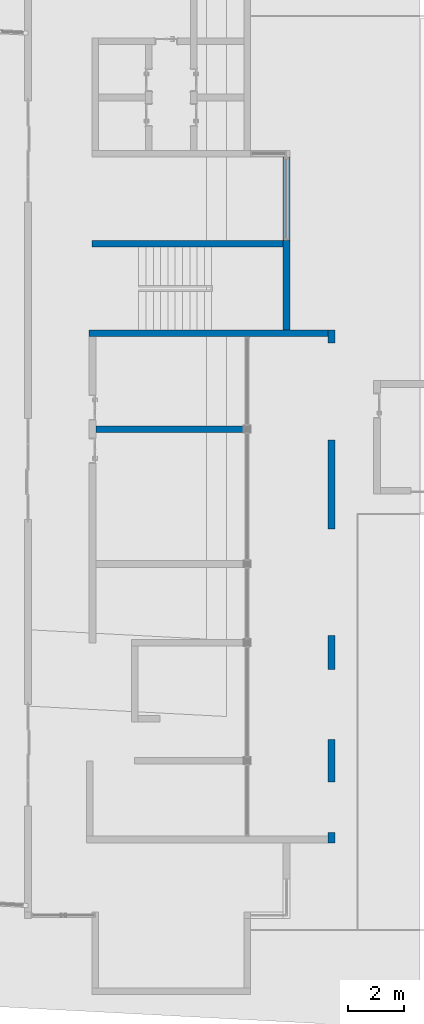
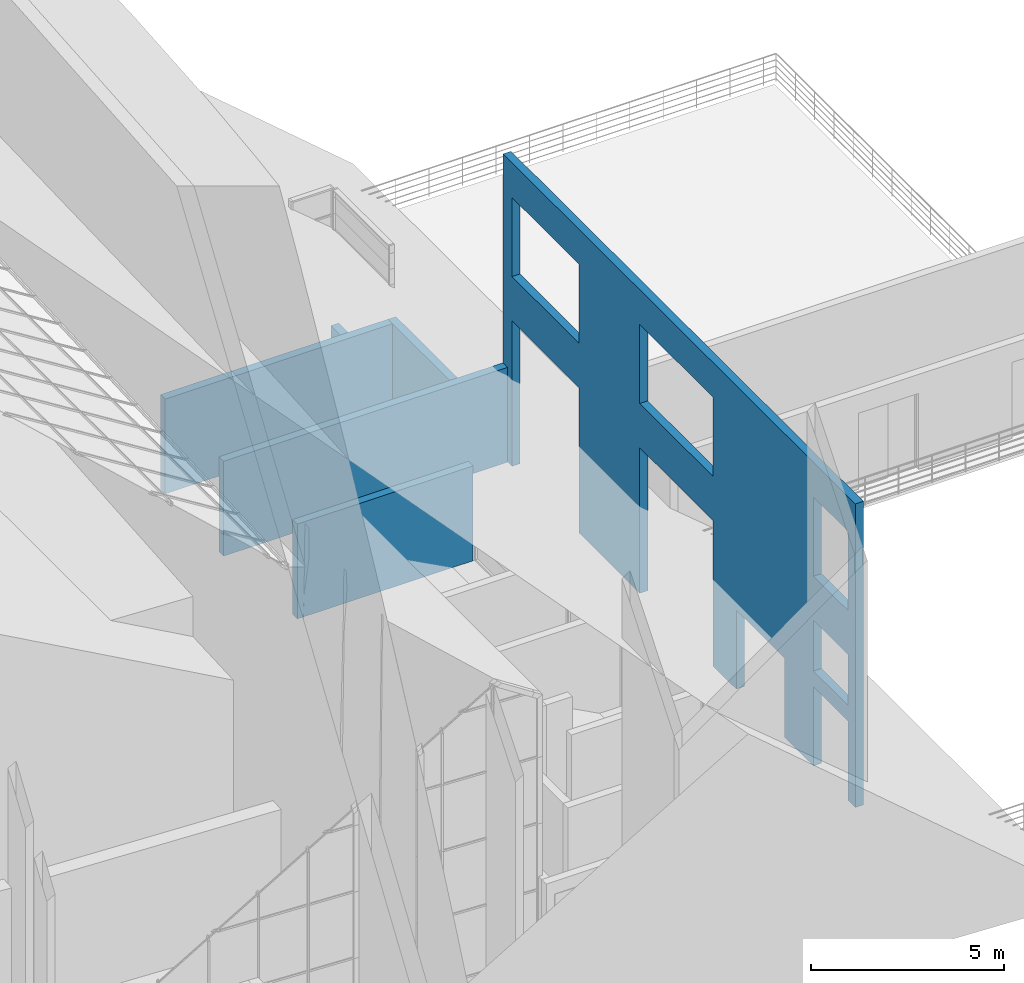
# One storey, part 56 of 82: 5 walls, 9 openings.
"""IFC2X3 building model written with IfcOpenShell, lengths in millimetres."""

import ifcopenshell
import ifcopenshell.guid

model = None  # the IFC model being written
_history = None  # IfcOwnerHistory: only IFC2X3 demands one
_inside = {}  # id of a spatial element -> (the spatial element, [elements in it])
_under = {}  # id of a project, library or spatial element -> (it, [spatial elements below it])
_declared = {}  # id of a project -> (the project, [libraries it declares])
_typed = {}  # id of a type object -> (the type object, [elements of that type])
_made_of = {}  # id of a material, layer set ... -> (it, [elements and type objects made of it])


def new_model(schema):
    """Start an empty IFC model of exactly this schema.

    Asked for "IFC4X3", IfcOpenShell would pick the latest addendum, in which some entities
    have other attributes; the version numbers below select the first issue.
    IFC2X3 requires an IfcOwnerHistory on every rooted entity: one is made here for all.
    """
    global model, _history
    if schema == "IFC4X3":
        model = ifcopenshell.file(schema_version=(4, 3, 0, 0))
    else:
        model = ifcopenshell.file(schema=schema)
    _inside.clear()
    _under.clear()
    _declared.clear()
    _typed.clear()
    _made_of.clear()
    _history = None
    if model.schema == "IFC2X3":
        org = make("IfcOrganization", Name="unknown")
        user = make(
            "IfcPersonAndOrganization",
            ThePerson=make("IfcPerson", FamilyName="unknown"),
            TheOrganization=org,
        )
        app = make(
            "IfcApplication",
            ApplicationDeveloper=org,
            Version="unknown",
            ApplicationFullName="unknown",
            ApplicationIdentifier="unknown",
        )
        _history = make(
            "IfcOwnerHistory",
            OwningUser=user,
            OwningApplication=app,
            ChangeAction="ADDED",
            CreationDate=0,
        )
    return model


def make(cls, **values):
    """One entity of the class cls with the attributes given. An attribute that is None is left unset."""
    return model.create_entity(
        cls, **{name: value for name, value in values.items() if value is not None}
    )


def entity(cls, *values):
    """Any entity or typed value of the class cls, its attributes in the order of the schema. None: left unset."""
    e = model.create_entity(cls)
    for i, value in enumerate(values):
        if value is not None:
            e[i] = value
    return e


def rooted(cls, **values):
    """An entity with a GlobalId (a new one), such as an element, a storey or a relation."""
    return make(cls, GlobalId=ifcopenshell.guid.new(), OwnerHistory=_history, **values)


def si_unit(unit_type, name, prefix=None):
    """IfcSIUnit, for example si_unit("LENGTHUNIT", "METRE", prefix="MILLI")."""
    return make("IfcSIUnit", UnitType=unit_type, Prefix=prefix, Name=name)


def converted_unit(unit_type, name, factor, base, dimensions=None, offset=None):
    """IfcConversionBasedUnit, such as the inch: factor (a typed value) times the base unit."""
    return make(
        "IfcConversionBasedUnit"
        if offset is None
        else "IfcConversionBasedUnitWithOffset",
        ConversionOffset=offset,
        Dimensions=None
        if dimensions is None
        else entity("IfcDimensionalExponents", *dimensions),
        UnitType=unit_type,
        Name=name,
        ConversionFactor=make(
            "IfcMeasureWithUnit", ValueComponent=factor, UnitComponent=base
        ),
    )


def derived_unit(unit_type, elements):
    """IfcDerivedUnit: a product of units, each with its exponent."""
    return make(
        "IfcDerivedUnit",
        Elements=[
            make("IfcDerivedUnitElement", Unit=unit, Exponent=power)
            for unit, power in elements
        ],
        UnitType=unit_type,
    )


def assignment(units):
    """IfcUnitAssignment: the units of a project."""
    return None if units is None else make("IfcUnitAssignment", Units=units)


def point(xyz):
    """IfcCartesianPoint."""
    return None if xyz is None else make("IfcCartesianPoint", Coordinates=xyz)


def direction(xyz):
    """IfcDirection."""
    return None if xyz is None else make("IfcDirection", DirectionRatios=xyz)


def frame(location, z_axis=None, x_axis=None):
    """IfcAxis2Placement3D, a coordinate frame: its origin and axes. An axis left out is left unset."""
    return make(
        "IfcAxis2Placement3D",
        Location=point(location),
        Axis=direction(z_axis),
        RefDirection=direction(x_axis),
    )


def frame_2d(location, x_axis=None):
    """IfcAxis2Placement2D, a coordinate frame in the plane: its origin and x axis."""
    return make(
        "IfcAxis2Placement2D", Location=point(location), RefDirection=direction(x_axis)
    )


def origin():
    """The frame at (0, 0, 0) with its axes left unset."""
    return frame((0.0, 0.0, 0.0))


def origin_2d_with_axis():
    """The frame at (0, 0) in the plane with the x axis (1, 0) written out."""
    return frame_2d((0.0, 0.0), x_axis=(1.0, 0.0))


def place(relative_to, where):
    """IfcLocalPlacement: puts the frame where relative to a parent placement (None: the world)."""
    return make(
        "IfcLocalPlacement", PlacementRelTo=relative_to, RelativePlacement=where
    )


def context(
    kind, dimensions, precision=None, world=None, true_north=None, identifier=None
):
    """IfcGeometricRepresentationContext, for example the 3D "Model" context."""
    return make(
        "IfcGeometricRepresentationContext",
        ContextIdentifier=identifier,
        ContextType=kind,
        CoordinateSpaceDimension=dimensions,
        Precision=precision,
        WorldCoordinateSystem=world,
        TrueNorth=true_north,
    )


def subcontext(parent, identifier, kind, view, scale=None):
    """IfcGeometricRepresentationSubContext, for example "Body" below "Model"."""
    return make(
        "IfcGeometricRepresentationSubContext",
        ContextIdentifier=identifier,
        ContextType=kind,
        ParentContext=parent,
        TargetScale=scale,
        TargetView=view,
    )


def project(units=None, contexts=None):
    """IfcProject with its units and contexts."""
    return rooted(
        "IfcProject",
        Name="project",
        RepresentationContexts=contexts,
        UnitsInContext=assignment(units),
    )


def spatial(cls, under=None, at=None, **own):
    """A site, building, storey or space (cls), placed at a placement, below another one or the project."""
    s = rooted(cls, ObjectPlacement=at, **own)
    if under is not None:
        _under.setdefault(under.id(), (under, []))[1].append(s)
    return s


def profile(cls, at=None, kind="AREA", **sizes):
    """A parametric profile (cls). Its sizes go by their IFC names, for example OverallWidth=200.0."""
    return make(cls, ProfileType=kind, Position=at, **sizes)


def rectangle(**sizes):
    """IfcRectangleProfileDef."""
    return profile("IfcRectangleProfileDef", **sizes)


def extrude(swept, where, along, depth):
    """IfcExtrudedAreaSolid: the profile swept, set in the frame where, extruded along a direction by depth."""
    return make(
        "IfcExtrudedAreaSolid",
        SweptArea=swept,
        Position=where,
        ExtrudedDirection=direction(along),
        Depth=depth,
    )


def shape(context_of_items, identifier, shape_type, items):
    """IfcShapeRepresentation: the items that make up one representation, for example the "Body"."""
    return make(
        "IfcShapeRepresentation",
        ContextOfItems=context_of_items,
        RepresentationIdentifier=identifier,
        RepresentationType=shape_type,
        Items=items,
    )


def material(Name=None, Category=None):
    """IfcMaterial."""
    return make("IfcMaterial", Name=Name, Category=Category)


def layer(
    of_material, thickness, ventilated=None, Name=None, Category=None, Priority=None
):
    """IfcMaterialLayer: one layer of a wall or slab, of a material (None: an air gap)."""
    return make(
        "IfcMaterialLayer",
        Material=of_material,
        LayerThickness=thickness,
        IsVentilated=ventilated,
        Name=Name,
        Category=Category,
        Priority=Priority,
    )


def layer_set(layers, Name=None):
    """IfcMaterialLayerSet."""
    return make("IfcMaterialLayerSet", MaterialLayers=layers, LayerSetName=Name)


def layer_usage(for_layer_set, set_direction, sense, offset, extent=None):
    """IfcMaterialLayerSetUsage: how a layer set lies in its element."""
    return make(
        "IfcMaterialLayerSetUsage",
        ForLayerSet=for_layer_set,
        LayerSetDirection=set_direction,
        DirectionSense=sense,
        OffsetFromReferenceLine=offset,
        ReferenceExtent=extent,
    )


def made_of(thing, what):
    """Note that an element or type object is made of a material, layer set ...; save() writes the relation."""
    if what is not None:
        _made_of.setdefault(what.id(), (what, []))[1].append(thing)
    return thing


def type_object(cls, material=None, **own):
    """A type object (cls), such as IfcWallType, which elements share."""
    return made_of(rooted(cls, **own), material)


def element(
    cls,
    number,
    at=None,
    inside=None,
    cuts=None,
    type_object=None,
    material=None,
    context=None,
    identifier="Body",
    shape_type=None,
    held_by="IfcProductDefinitionShape",
    body=None,
    shapes=None,
    **own,
):
    """One element of the class cls, such as IfcWall. Its Tag is "e" and its number.

    at: its placement. inside: the storey or other place that contains it. cuts: it is an
    opening in that element (IfcRelVoidsElement). A single representation is given by context,
    identifier, shape_type and body (its items); several are given by shapes. held_by: the class
    of the entity that holds the representations. save() writes the other relations.
    """
    e = rooted(cls, Tag="e%d" % number, ObjectPlacement=at, **own)
    if body is not None:
        shapes = [shape(context, identifier, shape_type, body)]
    if shapes is not None:
        e.Representation = make(held_by, Representations=shapes)
    if inside is not None:
        _inside.setdefault(inside.id(), (inside, []))[1].append(e)
    if cuts is not None:
        rooted(
            "IfcRelVoidsElement", RelatingBuildingElement=cuts, RelatedOpeningElement=e
        )
    if type_object is not None:
        _typed.setdefault(type_object.id(), (type_object, []))[1].append(e)
    return made_of(e, material)


def aggregate(whole, parts):
    """IfcRelAggregates: a whole, such as a stair, and the parts it consists of."""
    return rooted("IfcRelAggregates", RelatingObject=whole, RelatedObjects=parts)


def save(model, path):
    """Write the relations noted so far, then the file.

    IfcRelAggregates (storeys below a building ...), IfcRelContainedInSpatialStructure (elements
    in a storey), IfcRelDefinesByType, IfcRelAssociatesMaterial and IfcRelDeclares: one each for
    every whole, place, type object, material and project.
    """
    for whole, parts in _under.values():
        aggregate(whole, parts)
    for where, things in _inside.values():
        rooted(
            "IfcRelContainedInSpatialStructure",
            RelatedElements=things,
            RelatingStructure=where,
        )
    for kind, things in _typed.values():
        rooted("IfcRelDefinesByType", RelatedObjects=things, RelatingType=kind)
    for what, things in _made_of.values():
        rooted("IfcRelAssociatesMaterial", RelatedObjects=things, RelatingMaterial=what)
    for by, libraries in _declared.values():
        rooted("IfcRelDeclares", RelatingContext=by, RelatedDefinitions=libraries)
    model.write(path)


model = new_model("IFC2X3")

# Units and contexts
model_context = context("Model", 3, precision=0.01, world=origin(), true_north=direction((6.12303176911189e-17, 1.0)))
body_context = subcontext(model_context, "Body", "Model", "MODEL_VIEW")
ifc_project = project(units=[si_unit("LENGTHUNIT", "METRE", prefix="MILLI"), si_unit("AREAUNIT", "SQUARE_METRE"), si_unit("VOLUMEUNIT", "CUBIC_METRE"), converted_unit("PLANEANGLEUNIT", "DEGREE", entity("IfcRatioMeasure", 0.0174532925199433), si_unit("PLANEANGLEUNIT", "RADIAN"), dimensions=[0, 0, 0, 0, 0, 0, 0]), si_unit("MASSUNIT", "GRAM", prefix="KILO"), derived_unit("MASSDENSITYUNIT", [(si_unit("MASSUNIT", "GRAM", prefix="KILO"), 1), (si_unit("LENGTHUNIT", "METRE"), -3)]), si_unit("TIMEUNIT", "SECOND"), si_unit("FREQUENCYUNIT", "HERTZ"), si_unit("THERMODYNAMICTEMPERATUREUNIT", "DEGREE_CELSIUS"), derived_unit("THERMALTRANSMITTANCEUNIT", [(si_unit("MASSUNIT", "GRAM", prefix="KILO"), 1), (si_unit("THERMODYNAMICTEMPERATUREUNIT", "KELVIN"), -1), (si_unit("TIMEUNIT", "SECOND"), -3)]), derived_unit("VOLUMETRICFLOWRATEUNIT", [(si_unit("LENGTHUNIT", "METRE"), 3), (si_unit("TIMEUNIT", "SECOND"), -1)]), si_unit("ELECTRICCURRENTUNIT", "AMPERE"), si_unit("ELECTRICVOLTAGEUNIT", "VOLT"), si_unit("POWERUNIT", "WATT"), si_unit("FORCEUNIT", "NEWTON", prefix="KILO"), si_unit("ILLUMINANCEUNIT", "LUX"), si_unit("LUMINOUSFLUXUNIT", "LUMEN"), si_unit("LUMINOUSINTENSITYUNIT", "CANDELA"), derived_unit("USERDEFINED", [(si_unit("MASSUNIT", "GRAM", prefix="KILO"), -1), (si_unit("LENGTHUNIT", "METRE"), -2), (si_unit("TIMEUNIT", "SECOND"), 3), (si_unit("LUMINOUSFLUXUNIT", "LUMEN"), 1)]), derived_unit("LINEARVELOCITYUNIT", [(si_unit("LENGTHUNIT", "METRE"), 1), (si_unit("TIMEUNIT", "SECOND"), -1)]), si_unit("PRESSUREUNIT", "PASCAL"), derived_unit("USERDEFINED", [(si_unit("LENGTHUNIT", "METRE"), -2), (si_unit("MASSUNIT", "GRAM", prefix="KILO"), 1), (si_unit("TIMEUNIT", "SECOND"), -2)])], contexts=[model_context])

# Site, building, storey
site_placement = place(None, origin())
site = spatial("IfcSite", under=ifc_project, at=site_placement, Name="表面", CompositionType="ELEMENT")
building_placement = place(site_placement, origin())
building = spatial("IfcBuilding", under=site, at=building_placement, CompositionType="ELEMENT")
storey_placement = place(building_placement, origin())
storey = spatial("IfcBuildingStorey", under=building, at=storey_placement, Name="1F", CompositionType="ELEMENT", Elevation=0.0)

# Wall, opening
ifc_material_1 = material(Name="白色涂料")
ifc_layer_1 = layer(ifc_material_1, 10.0)
ifc_material_2 = material(Name="默认墙")
ifc_layer_2 = layer(ifc_material_2, 220.0)
ifc_layer_3 = layer(ifc_material_1, 10.0)
ifc_layer_set = layer_set([ifc_layer_1, ifc_layer_2, ifc_layer_3], Name="基本墙:粉刷墙240")
ifc_layer_usage_1 = layer_usage(ifc_layer_set, "AXIS2", "NEGATIVE", 120.0)
wall_type = type_object("IfcWallType", Name="基本墙:粉刷墙240", PredefinedType="STANDARD", material=ifc_layer_set)
wall_1_placement = place(storey_placement, frame((-5230.24991264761, -2436.868426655, 0.0), z_axis=(0.0, 0.0, 1.0), x_axis=(0.0, -1.0, 0.0)))
wall_1 = element("IfcWallStandardCase", 1, at=wall_1_placement, inside=storey, type_object=wall_type, material=ifc_layer_usage_1, Name="基本墙:粉刷墙240", ObjectType="基本墙:粉刷墙240", context=body_context, shape_type="SweptSolid", body=[
    extrude(rectangle(XDim=6150.97748632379, YDim=240.0, at=frame_2d((3075.4887431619, -2.06057393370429e-13), x_axis=(-1.0, 0.0))), origin(), (0.0, 0.0, 1.0), 3000.00000000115),
])
opening_1_placement = place(wall_1_placement, origin())
element("IfcOpeningElement", 2, at=opening_1_placement, cuts=wall_1, Name="基本墙:粉刷墙240", ObjectType="Opening", context=body_context, shape_type="SweptSolid", body=[
    extrude(rectangle(XDim=4300.0, YDim=2960.0, at=frame_2d((0.0, 2.27373675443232e-13), x_axis=(1.0, 0.0))), frame((1480.0, -272.399999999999, 3150.0), z_axis=(0.0, 1.0, 0.0), x_axis=(0.0, 0.0, 1.0)), (0.0, 0.0, 1.0), 544.8),
])

# Walls
ifc_layer_usage_2 = layer_usage(ifc_layer_set, "AXIS2", "NEGATIVE", 120.0)
wall_2_placement = place(storey_placement, frame((-5350.24991264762, -5516.868426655, 0.0), z_axis=(0.0, 0.0, 1.0), x_axis=(-1.0, 0.0, 0.0)))
element("IfcWallStandardCase", 3, at=wall_2_placement, inside=storey, type_object=wall_type, material=ifc_layer_usage_2, Name="基本墙:粉刷墙240", ObjectType="基本墙:粉刷墙240", context=body_context, shape_type="SweptSolid", body=[
    extrude(rectangle(XDim=6800.00000000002, YDim=240.0, at=frame_2d((3400.00000000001, 0.0), x_axis=(-1.0, 0.0))), origin(), (0.0, 0.0, 1.0), 3000.00000000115),
])
ifc_layer_usage_3 = layer_usage(ifc_layer_set, "AXIS2", "NEGATIVE", 120.0)
wall_3_placement = place(storey_placement, frame((-12250.2499126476, -8707.84591297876, 0.0)))
element("IfcWallStandardCase", 4, at=wall_3_placement, inside=storey, type_object=wall_type, material=ifc_layer_usage_3, Name="基本墙:粉刷墙240", ObjectType="基本墙:粉刷墙240", context=body_context, shape_type="SweptSolid", body=[
    extrude(rectangle(XDim=8500.0, YDim=240.0, at=frame_2d((4250.0, 0.0), x_axis=(-1.0, 0.0))), origin(), (0.0, 0.0, 1.0), 3000.00000000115),
])
ifc_layer_usage_4 = layer_usage(ifc_layer_set, "AXIS2", "NEGATIVE", 120.0)
wall_4_placement = place(storey_placement, frame((-12010.2499126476, -12116.868426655, 0.0)))
element("IfcWallStandardCase", 5, at=wall_4_placement, inside=storey, type_object=wall_type, material=ifc_layer_usage_4, Name="基本墙:粉刷墙240", ObjectType="基本墙:粉刷墙240", context=body_context, shape_type="SweptSolid", body=[
    extrude(rectangle(XDim=5260.0, YDim=240.000000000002, at=frame_2d((2630.0, -3.83693077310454e-13), x_axis=(-1.0, 0.0))), origin(), (0.0, 0.0, 1.0), 3000.00000000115),
])

# Wall, openings
ifc_layer_usage_5 = layer_usage(ifc_layer_set, "AXIS2", "NEGATIVE", 120.0)
wall_5_placement = place(storey_placement, frame((-3630.24991264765, -26836.868426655, 0.0), z_axis=(0.0, 0.0, 1.0), x_axis=(0.0, 1.0, 0.0)))
wall_5 = element("IfcWallStandardCase", 6, at=wall_5_placement, inside=storey, type_object=wall_type, material=ifc_layer_usage_5, Name="基本墙:粉刷墙240", ObjectType="基本墙:粉刷墙240", context=body_context, shape_type="SweptSolid", body=[
    extrude(rectangle(XDim=18249.0225136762, YDim=240.0, at=frame_2d((9124.51125683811, 1.98951966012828e-13), x_axis=(-1.0, 0.0))), origin(), (0.0, 0.0, 1.0), 9600.00000000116),
])
opening_2_placement = place(wall_5_placement, origin())
element("IfcOpeningElement", 7, at=opening_2_placement, cuts=wall_5, Name="基本墙:粉刷墙240", ObjectType="Opening", context=body_context, shape_type="SweptSolid", body=[
    extrude(rectangle(XDim=2500.00000000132, YDim=1800.0, at=frame_2d((0.0, -2.1600499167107e-12), x_axis=(1.0, 0.0))), frame((1271.12268509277, -120.0, 1250.0), z_axis=(0.0, 1.0, 0.0), x_axis=(0.0, 0.0, -1.0)), (0.0, 0.0, 1.0), 240.0),
])
opening_3_placement = place(wall_5_placement, origin())
element("IfcOpeningElement", 8, at=opening_3_placement, cuts=wall_5, Name="基本墙:粉刷墙240", ObjectType="Opening", context=body_context, shape_type="SweptSolid", body=[
    extrude(rectangle(XDim=1599.9999999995, YDim=1800.0, at=frame_2d((2.8421709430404e-13, -2.1600499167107e-12), x_axis=(1.0, 0.0))), frame((1271.12268509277, -120.0, 3800.0), z_axis=(0.0, 1.0, 0.0), x_axis=(0.0, 0.0, -1.0)), (0.0, 0.0, 1.0), 240.0),
])
opening_4_placement = place(wall_5_placement, origin())
element("IfcOpeningElement", 9, at=opening_4_placement, cuts=wall_5, Name="基本墙:粉刷墙240", ObjectType="Opening", context=body_context, shape_type="SweptSolid", body=[
    extrude(rectangle(XDim=2500.0, YDim=1800.0, at=frame_2d((5.6843418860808e-13, -2.1600499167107e-12), x_axis=(1.0, 0.0))), frame((1271.12268509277, -120.0, 7250.0), z_axis=(0.0, 1.0, 0.0), x_axis=(0.0, 0.0, -1.0)), (0.0, 0.0, 1.0), 240.0),
])
opening_5_placement = place(wall_5_placement, origin())
element("IfcOpeningElement", 10, at=opening_5_placement, cuts=wall_5, Name="基本墙:粉刷墙240", ObjectType="Opening", context=body_context, shape_type="SweptSolid", body=[
    extrude(rectangle(XDim=2500.00000000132, YDim=2500.0, at=frame_2d((0.0, 2.27373675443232e-12), x_axis=(1.0, 0.0))), frame((4921.12268509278, -120.0, 1250.0), z_axis=(0.0, 1.0, 0.0), x_axis=(0.0, 0.0, -1.0)), (0.0, 0.0, 1.0), 240.0),
])
opening_6_placement = place(wall_5_placement, origin())
element("IfcOpeningElement", 11, at=opening_6_placement, cuts=wall_5, Name="基本墙:粉刷墙240", ObjectType="Opening", context=body_context, shape_type="SweptSolid", body=[
    extrude(rectangle(XDim=4600.0, YDim=3800.00000000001, at=frame_2d((0.0, 1.02318153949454e-12), x_axis=(1.0, 0.0))), frame((9271.12268509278, -120.0, 2300.0), z_axis=(0.0, 1.0, 0.0), x_axis=(0.0, 0.0, -1.0)), (0.0, 0.0, 1.0), 240.0),
])
opening_7_placement = place(wall_5_placement, origin())
element("IfcOpeningElement", 12, at=opening_7_placement, cuts=wall_5, Name="基本墙:粉刷墙240", ObjectType="Opening", context=body_context, shape_type="SweptSolid", body=[
    extrude(rectangle(XDim=2500.00000000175, YDim=3800.00000000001, at=frame_2d((0.0, 1.02318153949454e-12), x_axis=(1.0, 0.0))), frame((9271.12268509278, -120.0, 7250.0), z_axis=(0.0, 1.0, 0.0), x_axis=(0.0, 0.0, -1.0)), (0.0, 0.0, 1.0), 240.0),
])
opening_8_placement = place(wall_5_placement, origin())
element("IfcOpeningElement", 13, at=opening_8_placement, cuts=wall_5, Name="基本墙:粉刷墙240", ObjectType="Opening", context=body_context, shape_type="SweptSolid", body=[
    extrude(rectangle(XDim=2500.00000000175, YDim=3460.00000000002, at=origin_2d_with_axis()), frame((16059.0225136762, -120.0, 7250.0), z_axis=(0.0, 1.0, 0.0), x_axis=(0.0, 0.0, -1.0)), (0.0, 0.0, 1.0), 240.0),
])
opening_9_placement = place(wall_5_placement, origin())
element("IfcOpeningElement", 14, at=opening_9_placement, cuts=wall_5, Name="基本墙:粉刷墙240", ObjectType="Opening", context=body_context, shape_type="SweptSolid", body=[
    extrude(rectangle(XDim=4600.0, YDim=3460.00000000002, at=origin_2d_with_axis()), frame((16059.0225136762, -120.0, 2300.0), z_axis=(0.0, 1.0, 0.0), x_axis=(0.0, 0.0, -1.0)), (0.0, 0.0, 1.0), 240.0),
])

save(model, "model.ifc")
